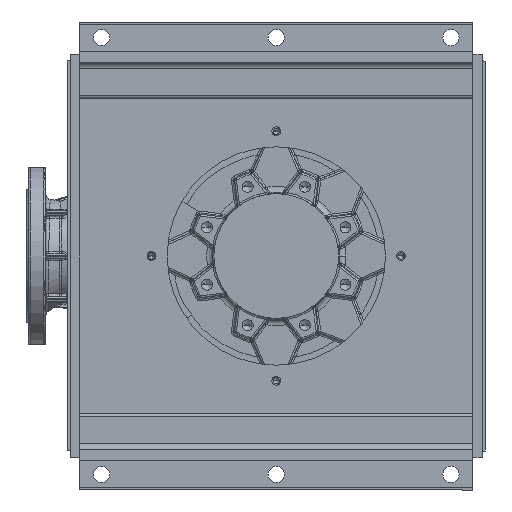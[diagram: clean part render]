
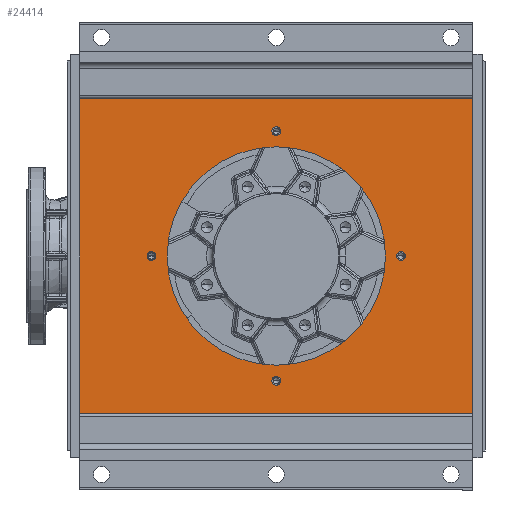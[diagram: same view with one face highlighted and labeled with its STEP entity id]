
A CAD part, front view. The second image highlights one B-rep face of the part: STEP entity #24414.
In plain terms, the highlighted planar face has unit normal (0, -1, 0).
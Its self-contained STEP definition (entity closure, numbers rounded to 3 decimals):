
#2258 = DIRECTION ( 'NONE',  ( 0., 1., 0. ) ) ;
#3207 = AXIS2_PLACEMENT_3D ( 'NONE', #119728, #27918, #135088 ) ;
#4572 = VERTEX_POINT ( 'NONE', #195039 ) ;
#7095 = DIRECTION ( 'NONE',  ( -1., 0., 0. ) ) ;
#10018 = EDGE_LOOP ( 'NONE', ( #74495, #157661 ) ) ;
#10197 = ORIENTED_EDGE ( 'NONE', *, *, #175548, .T. ) ;
#10877 = AXIS2_PLACEMENT_3D ( 'NONE', #15035, #122174, #30336 ) ;
#12587 = EDGE_LOOP ( 'NONE', ( #104154, #121925, #21701, #14051 ) ) ;
#14051 = ORIENTED_EDGE ( 'NONE', *, *, #183571, .T. ) ;
#15035 = CARTESIAN_POINT ( 'NONE',  ( -200., -463.5, 0. ) ) ;
#16800 = ORIENTED_EDGE ( 'NONE', *, *, #159573, .T. ) ;
#20322 = EDGE_CURVE ( 'NONE', #32185, #70020, #132425, .T. ) ;
#20824 = VERTEX_POINT ( 'NONE', #35032 ) ;
#21701 = ORIENTED_EDGE ( 'NONE', *, *, #152209, .F. ) ;
#23619 = DIRECTION ( 'NONE',  ( 0., 1., 0. ) ) ;
#24173 = ORIENTED_EDGE ( 'NONE', *, *, #154940, .T. ) ;
#24414 = ADVANCED_FACE ( 'NONE', ( #148610, #148445, #148410, #148261, #148076, #149802 ), #100654, .F. ) ;
#24728 = AXIS2_PLACEMENT_3D ( 'NONE', #86013, #193314, #101336 ) ;
#27918 = DIRECTION ( 'NONE',  ( 0., 1., 0. ) ) ;
#29210 = CIRCLE ( 'NONE', #63447, 175. ) ;
#29368 = AXIS2_PLACEMENT_3D ( 'NONE', #65188, #172528, #80691 ) ;
#30336 = DIRECTION ( 'NONE',  ( -1., 0., 0. ) ) ;
#32185 = VERTEX_POINT ( 'NONE', #126100 ) ;
#34637 = CARTESIAN_POINT ( 'NONE',  ( 0., -463.5, 200. ) ) ;
#35032 = CARTESIAN_POINT ( 'NONE',  ( -7., -463.5, -200. ) ) ;
#36279 = AXIS2_PLACEMENT_3D ( 'NONE', #190660, #98768, #7095 ) ;
#39957 = CARTESIAN_POINT ( 'NONE',  ( 315., -463.5, -323. ) ) ;
#43101 = VERTEX_POINT ( 'NONE', #107135 ) ;
#43469 = CARTESIAN_POINT ( 'NONE',  ( -193., -463.5, 0. ) ) ;
#45954 = ORIENTED_EDGE ( 'NONE', *, *, #144473, .T. ) ;
#48147 = CARTESIAN_POINT ( 'NONE',  ( -315., -463.5, 253. ) ) ;
#48480 = EDGE_LOOP ( 'NONE', ( #24173, #16800 ) ) ;
#49889 = DIRECTION ( 'NONE',  ( -1., 0., 0. ) ) ;
#54191 = VERTEX_POINT ( 'NONE', #95925 ) ;
#54486 = CARTESIAN_POINT ( 'NONE',  ( -315., -463.5, -253. ) ) ;
#57432 = AXIS2_PLACEMENT_3D ( 'NONE', #115475, #23619, #130857 ) ;
#61159 = VERTEX_POINT ( 'NONE', #163747 ) ;
#61765 = CIRCLE ( 'NONE', #24728, 7. ) ;
#61940 = DIRECTION ( 'NONE',  ( 0., 0., -1. ) ) ;
#62388 = VECTOR ( 'NONE', #192773, 1000. ) ;
#63447 = AXIS2_PLACEMENT_3D ( 'NONE', #93919, #2258, #109334 ) ;
#65188 = CARTESIAN_POINT ( 'NONE',  ( 0., -463.5, 0. ) ) ;
#70020 = VERTEX_POINT ( 'NONE', #43469 ) ;
#72679 = EDGE_CURVE ( 'NONE', #179376, #4572, #29210, .T. ) ;
#73091 = DIRECTION ( 'NONE',  ( -1., 0., 0. ) ) ;
#73296 = DIRECTION ( 'NONE',  ( 0., 1., 0. ) ) ;
#73459 = CARTESIAN_POINT ( 'NONE',  ( -200., -463.5, 0. ) ) ;
#74495 = ORIENTED_EDGE ( 'NONE', *, *, #140865, .T. ) ;
#80691 = DIRECTION ( 'NONE',  ( -1., 0., 0. ) ) ;
#80756 = DIRECTION ( 'NONE',  ( -1., 0., 0. ) ) ;
#81491 = EDGE_CURVE ( 'NONE', #118985, #43101, #174762, .T. ) ;
#83738 = ORIENTED_EDGE ( 'NONE', *, *, #72679, .T. ) ;
#84704 = DIRECTION ( 'NONE',  ( 0., 1., 0. ) ) ;
#85621 = CARTESIAN_POINT ( 'NONE',  ( 193., -463.5, 0. ) ) ;
#86013 = CARTESIAN_POINT ( 'NONE',  ( 0., -463.5, -200. ) ) ;
#87954 = DIRECTION ( 'NONE',  ( -1., 0., 0. ) ) ;
#88610 = DIRECTION ( 'NONE',  ( 0., 1., 0. ) ) ;
#89286 = EDGE_CURVE ( 'NONE', #196226, #96479, #99098, .T. ) ;
#89447 = EDGE_CURVE ( 'NONE', #4572, #179376, #156500, .T. ) ;
#89785 = CARTESIAN_POINT ( 'NONE',  ( -335., -463.5, -312.5 ) ) ;
#92802 = VERTEX_POINT ( 'NONE', #85621 ) ;
#93919 = CARTESIAN_POINT ( 'NONE',  ( 0., -463.5, 0. ) ) ;
#95925 = CARTESIAN_POINT ( 'NONE',  ( 207., -463.5, 0. ) ) ;
#96479 = VERTEX_POINT ( 'NONE', #162972 ) ;
#98768 = DIRECTION ( 'NONE',  ( 0., 1., 0. ) ) ;
#99098 = LINE ( 'NONE', #125044, #135051 ) ;
#99517 = VECTOR ( 'NONE', #80756, 1000. ) ;
#100654 = PLANE ( 'NONE',  #135453 ) ;
#101336 = DIRECTION ( 'NONE',  ( -1., 0., 0. ) ) ;
#101752 = CARTESIAN_POINT ( 'NONE',  ( 315., -463.5, 253. ) ) ;
#103263 = LINE ( 'NONE', #54486, #62388 ) ;
#104154 = ORIENTED_EDGE ( 'NONE', *, *, #89286, .T. ) ;
#107135 = CARTESIAN_POINT ( 'NONE',  ( -7., -463.5, 200. ) ) ;
#109334 = DIRECTION ( 'NONE',  ( -1., 0., 0. ) ) ;
#110905 = ORIENTED_EDGE ( 'NONE', *, *, #20322, .T. ) ;
#115475 = CARTESIAN_POINT ( 'NONE',  ( 0., -463.5, -200. ) ) ;
#117316 = ORIENTED_EDGE ( 'NONE', *, *, #175242, .T. ) ;
#117473 = VECTOR ( 'NONE', #162546, 1000. ) ;
#118985 = VERTEX_POINT ( 'NONE', #145621 ) ;
#119347 = EDGE_LOOP ( 'NONE', ( #131144, #83738 ) ) ;
#119728 = CARTESIAN_POINT ( 'NONE',  ( 200., -463.5, 0. ) ) ;
#120375 = EDGE_CURVE ( 'NONE', #96479, #61159, #103263, .T. ) ;
#120623 = CIRCLE ( 'NONE', #36279, 7. ) ;
#121925 = ORIENTED_EDGE ( 'NONE', *, *, #120375, .T. ) ;
#122174 = DIRECTION ( 'NONE',  ( 0., 1., 0. ) ) ;
#125044 = CARTESIAN_POINT ( 'NONE',  ( -315., -463.5, -323. ) ) ;
#126100 = CARTESIAN_POINT ( 'NONE',  ( -207., -463.5, 0. ) ) ;
#126518 = CIRCLE ( 'NONE', #10877, 7. ) ;
#128894 = CARTESIAN_POINT ( 'NONE',  ( 175., -463.5, 0. ) ) ;
#130857 = DIRECTION ( 'NONE',  ( -1., 0., 0. ) ) ;
#131144 = ORIENTED_EDGE ( 'NONE', *, *, #89447, .T. ) ;
#132425 = CIRCLE ( 'NONE', #165699, 7. ) ;
#135051 = VECTOR ( 'NONE', #61940, 1000. ) ;
#135088 = DIRECTION ( 'NONE',  ( -1., 0., 0. ) ) ;
#135453 = AXIS2_PLACEMENT_3D ( 'NONE', #89785, #88610, #87954 ) ;
#140865 = EDGE_CURVE ( 'NONE', #43101, #118985, #120623, .T. ) ;
#141718 = DIRECTION ( 'NONE',  ( 0., 1., 0. ) ) ;
#144473 = EDGE_CURVE ( 'NONE', #54191, #92802, #153996, .T. ) ;
#145621 = CARTESIAN_POINT ( 'NONE',  ( 7., -463.5, 200. ) ) ;
#147779 = CIRCLE ( 'NONE', #3207, 7. ) ;
#148076 = FACE_BOUND ( 'NONE', #48480, .T. ) ;
#148261 = FACE_BOUND ( 'NONE', #173750, .T. ) ;
#148410 = FACE_BOUND ( 'NONE', #10018, .T. ) ;
#148445 = FACE_BOUND ( 'NONE', #159788, .T. ) ;
#148534 = VERTEX_POINT ( 'NONE', #101752 ) ;
#148610 = FACE_OUTER_BOUND ( 'NONE', #12587, .T. ) ;
#149802 = FACE_BOUND ( 'NONE', #119347, .T. ) ;
#152209 = EDGE_CURVE ( 'NONE', #148534, #61159, #158087, .T. ) ;
#153996 = CIRCLE ( 'NONE', #193299, 7. ) ;
#154940 = EDGE_CURVE ( 'NONE', #20824, #175429, #189269, .T. ) ;
#156500 = CIRCLE ( 'NONE', #29368, 175. ) ;
#157661 = ORIENTED_EDGE ( 'NONE', *, *, #81491, .T. ) ;
#158087 = LINE ( 'NONE', #39957, #117473 ) ;
#159573 = EDGE_CURVE ( 'NONE', #175429, #20824, #61765, .T. ) ;
#159788 = EDGE_LOOP ( 'NONE', ( #110905, #117316 ) ) ;
#162546 = DIRECTION ( 'NONE',  ( 0., 0., -1. ) ) ;
#162741 = AXIS2_PLACEMENT_3D ( 'NONE', #34637, #141718, #49889 ) ;
#162972 = CARTESIAN_POINT ( 'NONE',  ( -315., -463.5, -253. ) ) ;
#163747 = CARTESIAN_POINT ( 'NONE',  ( 315., -463.5, -253. ) ) ;
#165699 = AXIS2_PLACEMENT_3D ( 'NONE', #73459, #73296, #73091 ) ;
#172528 = DIRECTION ( 'NONE',  ( 0., 1., 0. ) ) ;
#173750 = EDGE_LOOP ( 'NONE', ( #10197, #45954 ) ) ;
#174762 = CIRCLE ( 'NONE', #162741, 7. ) ;
#175242 = EDGE_CURVE ( 'NONE', #70020, #32185, #126518, .T. ) ;
#175429 = VERTEX_POINT ( 'NONE', #188477 ) ;
#175548 = EDGE_CURVE ( 'NONE', #92802, #54191, #147779, .T. ) ;
#176559 = CARTESIAN_POINT ( 'NONE',  ( 200., -463.5, 0. ) ) ;
#179376 = VERTEX_POINT ( 'NONE', #128894 ) ;
#181137 = LINE ( 'NONE', #187476, #99517 ) ;
#183571 = EDGE_CURVE ( 'NONE', #148534, #196226, #181137, .T. ) ;
#187476 = CARTESIAN_POINT ( 'NONE',  ( 315., -463.5, 253. ) ) ;
#188477 = CARTESIAN_POINT ( 'NONE',  ( 7., -463.5, -200. ) ) ;
#189269 = CIRCLE ( 'NONE', #57432, 7. ) ;
#190660 = CARTESIAN_POINT ( 'NONE',  ( 0., -463.5, 200. ) ) ;
#192008 = DIRECTION ( 'NONE',  ( -1., 0., 0. ) ) ;
#192773 = DIRECTION ( 'NONE',  ( 1., 0., 0. ) ) ;
#193299 = AXIS2_PLACEMENT_3D ( 'NONE', #176559, #84704, #192008 ) ;
#193314 = DIRECTION ( 'NONE',  ( 0., 1., 0. ) ) ;
#195039 = CARTESIAN_POINT ( 'NONE',  ( -175., -463.5, 0. ) ) ;
#196226 = VERTEX_POINT ( 'NONE', #48147 ) ;
